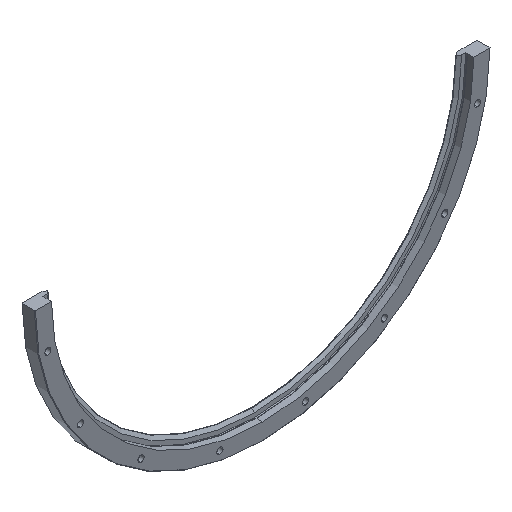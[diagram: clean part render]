
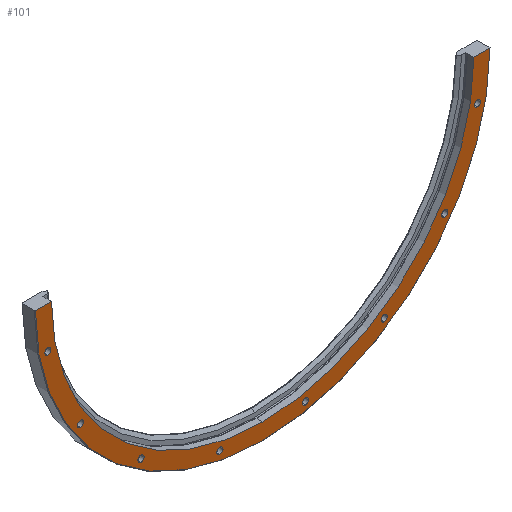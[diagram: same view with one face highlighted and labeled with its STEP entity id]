
A CAD part, isometric view. The second image highlights one B-rep face of the part: STEP entity #101.
In plain terms, the highlighted planar face has unit normal (0, -1, 0).
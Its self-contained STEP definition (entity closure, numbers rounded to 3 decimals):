
#101=ADVANCED_FACE('',(#192,#193,#194,#195,#196,#197,#198,#199,#200),#201,.T.);
#192=FACE_OUTER_BOUND('',#344,.T.);
#193=FACE_BOUND('',#345,.T.);
#194=FACE_BOUND('',#346,.T.);
#195=FACE_BOUND('',#347,.T.);
#196=FACE_BOUND('',#348,.T.);
#197=FACE_BOUND('',#349,.T.);
#198=FACE_BOUND('',#350,.T.);
#199=FACE_BOUND('',#351,.T.);
#200=FACE_BOUND('',#352,.T.);
#201=PLANE('',#353);
#344=EDGE_LOOP('',(#626,#627,#628,#629,#630,#631));
#345=EDGE_LOOP('',(#632,#633));
#346=EDGE_LOOP('',(#634,#635));
#347=EDGE_LOOP('',(#636,#637));
#348=EDGE_LOOP('',(#638,#639));
#349=EDGE_LOOP('',(#640,#641));
#350=EDGE_LOOP('',(#642,#643));
#351=EDGE_LOOP('',(#644,#645));
#352=EDGE_LOOP('',(#646,#647));
#353=AXIS2_PLACEMENT_3D('',#648,#649,#650);
#626=ORIENTED_EDGE('',*,*,#1049,.F.);
#627=ORIENTED_EDGE('',*,*,#969,.T.);
#628=ORIENTED_EDGE('',*,*,#1050,.T.);
#629=ORIENTED_EDGE('',*,*,#1051,.F.);
#630=ORIENTED_EDGE('',*,*,#1052,.F.);
#631=ORIENTED_EDGE('',*,*,#953,.F.);
#632=ORIENTED_EDGE('',*,*,#1053,.T.);
#633=ORIENTED_EDGE('',*,*,#982,.T.);
#634=ORIENTED_EDGE('',*,*,#1054,.T.);
#635=ORIENTED_EDGE('',*,*,#990,.T.);
#636=ORIENTED_EDGE('',*,*,#1055,.T.);
#637=ORIENTED_EDGE('',*,*,#1030,.T.);
#638=ORIENTED_EDGE('',*,*,#1056,.T.);
#639=ORIENTED_EDGE('',*,*,#1038,.T.);
#640=ORIENTED_EDGE('',*,*,#1057,.T.);
#641=ORIENTED_EDGE('',*,*,#1022,.T.);
#642=ORIENTED_EDGE('',*,*,#1058,.T.);
#643=ORIENTED_EDGE('',*,*,#1014,.T.);
#644=ORIENTED_EDGE('',*,*,#1059,.T.);
#645=ORIENTED_EDGE('',*,*,#1006,.T.);
#646=ORIENTED_EDGE('',*,*,#1060,.T.);
#647=ORIENTED_EDGE('',*,*,#998,.T.);
#648=CARTESIAN_POINT('',(-409.0,-19.325,0.0));
#649=DIRECTION('',(0.0,-1.0,0.0));
#650=DIRECTION('',(0.0,0.0,-1.0));
#953=EDGE_CURVE('',#1112,#1108,#1114,.T.);
#969=EDGE_CURVE('',#1144,#1141,#1145,.T.);
#982=EDGE_CURVE('',#1167,#1168,#1169,.T.);
#990=EDGE_CURVE('',#1183,#1184,#1185,.T.);
#998=EDGE_CURVE('',#1199,#1200,#1201,.T.);
#1006=EDGE_CURVE('',#1215,#1216,#1217,.T.);
#1014=EDGE_CURVE('',#1231,#1232,#1233,.T.);
#1022=EDGE_CURVE('',#1247,#1248,#1249,.T.);
#1030=EDGE_CURVE('',#1263,#1264,#1265,.T.);
#1038=EDGE_CURVE('',#1279,#1280,#1281,.T.);
#1049=EDGE_CURVE('',#1144,#1112,#1299,.T.);
#1050=EDGE_CURVE('',#1141,#1300,#1301,.T.);
#1051=EDGE_CURVE('',#1302,#1300,#1303,.T.);
#1052=EDGE_CURVE('',#1108,#1302,#1304,.T.);
#1053=EDGE_CURVE('',#1168,#1167,#1305,.T.);
#1054=EDGE_CURVE('',#1184,#1183,#1306,.T.);
#1055=EDGE_CURVE('',#1264,#1263,#1307,.T.);
#1056=EDGE_CURVE('',#1280,#1279,#1308,.T.);
#1057=EDGE_CURVE('',#1248,#1247,#1309,.T.);
#1058=EDGE_CURVE('',#1232,#1231,#1310,.T.);
#1059=EDGE_CURVE('',#1216,#1215,#1311,.T.);
#1060=EDGE_CURVE('',#1200,#1199,#1312,.T.);
#1108=VERTEX_POINT('',#1368);
#1112=VERTEX_POINT('',#1373);
#1114=CIRCLE('',#1378,409.0);
#1141=VERTEX_POINT('',#1418);
#1144=VERTEX_POINT('',#1422);
#1145=CIRCLE('',#1423,380.0);
#1167=VERTEX_POINT('',#1458);
#1168=VERTEX_POINT('',#1459);
#1169=CIRCLE('',#1460,5.5);
#1183=VERTEX_POINT('',#1478);
#1184=VERTEX_POINT('',#1479);
#1185=CIRCLE('',#1480,5.5);
#1199=VERTEX_POINT('',#1498);
#1200=VERTEX_POINT('',#1499);
#1201=CIRCLE('',#1500,5.5);
#1215=VERTEX_POINT('',#1518);
#1216=VERTEX_POINT('',#1519);
#1217=CIRCLE('',#1520,5.5);
#1231=VERTEX_POINT('',#1538);
#1232=VERTEX_POINT('',#1539);
#1233=CIRCLE('',#1540,5.5);
#1247=VERTEX_POINT('',#1558);
#1248=VERTEX_POINT('',#1559);
#1249=CIRCLE('',#1560,5.5);
#1263=VERTEX_POINT('',#1578);
#1264=VERTEX_POINT('',#1579);
#1265=CIRCLE('',#1580,5.5);
#1279=VERTEX_POINT('',#1598);
#1280=VERTEX_POINT('',#1599);
#1281=CIRCLE('',#1600,5.5);
#1299=LINE('',#1628,#1629);
#1300=VERTEX_POINT('',#1630);
#1301=CIRCLE('',#1631,380.0);
#1302=VERTEX_POINT('',#1632);
#1303=LINE('',#1633,#1634);
#1304=CIRCLE('',#1635,409.0);
#1305=CIRCLE('',#1636,5.5);
#1306=CIRCLE('',#1637,5.5);
#1307=CIRCLE('',#1638,5.5);
#1308=CIRCLE('',#1639,5.5);
#1309=CIRCLE('',#1640,5.5);
#1310=CIRCLE('',#1641,5.5);
#1311=CIRCLE('',#1642,5.5);
#1312=CIRCLE('',#1643,5.5);
#1368=CARTESIAN_POINT('',(0.,-19.325,-409.0));
#1373=CARTESIAN_POINT('',(408.995,-19.325,-2.0));
#1378=AXIS2_PLACEMENT_3D('',#1728,#1729,#1730);
#1418=CARTESIAN_POINT('',(0.,-19.325,-380.0));
#1422=CARTESIAN_POINT('',(379.995,-19.325,-2.0));
#1423=AXIS2_PLACEMENT_3D('',#1758,#1759,#1760);
#1458=CARTESIAN_POINT('',(386.429,-19.325,-82.366));
#1459=CARTESIAN_POINT('',(386.429,-19.325,-71.366));
#1460=AXIS2_PLACEMENT_3D('',#1785,#1786,#1787);
#1478=CARTESIAN_POINT('',(327.599,-19.325,-224.395));
#1479=CARTESIAN_POINT('',(327.599,-19.325,-213.395));
#1480=AXIS2_PLACEMENT_3D('',#1801,#1802,#1803);
#1498=CARTESIAN_POINT('',(218.895,-19.325,-333.099));
#1499=CARTESIAN_POINT('',(218.895,-19.325,-322.099));
#1500=AXIS2_PLACEMENT_3D('',#1817,#1818,#1819);
#1518=CARTESIAN_POINT('',(76.866,-19.325,-391.929));
#1519=CARTESIAN_POINT('',(76.866,-19.325,-380.929));
#1520=AXIS2_PLACEMENT_3D('',#1833,#1834,#1835);
#1538=CARTESIAN_POINT('',(-76.866,-19.325,-391.929));
#1539=CARTESIAN_POINT('',(-76.866,-19.325,-380.929));
#1540=AXIS2_PLACEMENT_3D('',#1849,#1850,#1851);
#1558=CARTESIAN_POINT('',(-218.895,-19.325,-333.099));
#1559=CARTESIAN_POINT('',(-218.895,-19.325,-322.099));
#1560=AXIS2_PLACEMENT_3D('',#1865,#1866,#1867);
#1578=CARTESIAN_POINT('',(-327.599,-19.325,-224.395));
#1579=CARTESIAN_POINT('',(-327.599,-19.325,-213.395));
#1580=AXIS2_PLACEMENT_3D('',#1881,#1882,#1883);
#1598=CARTESIAN_POINT('',(-386.429,-19.325,-82.366));
#1599=CARTESIAN_POINT('',(-386.429,-19.325,-71.366));
#1600=AXIS2_PLACEMENT_3D('',#1897,#1898,#1899);
#1628=CARTESIAN_POINT('',(29.933,-19.325,-2.0));
#1629=VECTOR('',#1916,1000.0);
#1630=CARTESIAN_POINT('',(-379.995,-19.325,-2.0));
#1631=AXIS2_PLACEMENT_3D('',#1917,#1918,#1919);
#1632=CARTESIAN_POINT('',(-408.995,-19.325,-2.0));
#1633=CARTESIAN_POINT('',(-999.998,-19.325,-2.0));
#1634=VECTOR('',#1920,1000.0);
#1635=AXIS2_PLACEMENT_3D('',#1921,#1922,#1923);
#1636=AXIS2_PLACEMENT_3D('',#1924,#1925,#1926);
#1637=AXIS2_PLACEMENT_3D('',#1927,#1928,#1929);
#1638=AXIS2_PLACEMENT_3D('',#1930,#1931,#1932);
#1639=AXIS2_PLACEMENT_3D('',#1933,#1934,#1935);
#1640=AXIS2_PLACEMENT_3D('',#1936,#1937,#1938);
#1641=AXIS2_PLACEMENT_3D('',#1939,#1940,#1941);
#1642=AXIS2_PLACEMENT_3D('',#1942,#1943,#1944);
#1643=AXIS2_PLACEMENT_3D('',#1945,#1946,#1947);
#1728=CARTESIAN_POINT('',(0.0,-19.325,0.0));
#1729=DIRECTION('',(-0.0,1.0,0.0));
#1730=DIRECTION('',(0.0,0.0,1.0));
#1758=CARTESIAN_POINT('',(0.0,-19.325,0.0));
#1759=DIRECTION('',(-0.0,1.0,0.0));
#1760=DIRECTION('',(0.0,0.0,1.0));
#1785=CARTESIAN_POINT('',(386.429,-19.325,-76.866));
#1786=DIRECTION('',(-0.0,1.0,0.0));
#1787=DIRECTION('',(0.0,0.0,1.0));
#1801=CARTESIAN_POINT('',(327.599,-19.325,-218.895));
#1802=DIRECTION('',(-0.0,1.0,0.0));
#1803=DIRECTION('',(0.0,0.0,1.0));
#1817=CARTESIAN_POINT('',(218.895,-19.325,-327.599));
#1818=DIRECTION('',(-0.0,1.0,0.0));
#1819=DIRECTION('',(0.0,0.0,1.0));
#1833=CARTESIAN_POINT('',(76.866,-19.325,-386.429));
#1834=DIRECTION('',(-0.0,1.0,0.0));
#1835=DIRECTION('',(0.0,0.0,1.0));
#1849=CARTESIAN_POINT('',(-76.866,-19.325,-386.429));
#1850=DIRECTION('',(-0.0,1.0,0.0));
#1851=DIRECTION('',(0.0,0.0,1.0));
#1865=CARTESIAN_POINT('',(-218.895,-19.325,-327.599));
#1866=DIRECTION('',(-0.0,1.0,0.0));
#1867=DIRECTION('',(0.0,0.0,1.0));
#1881=CARTESIAN_POINT('',(-327.599,-19.325,-218.895));
#1882=DIRECTION('',(-0.0,1.0,0.0));
#1883=DIRECTION('',(0.0,0.0,1.0));
#1897=CARTESIAN_POINT('',(-386.429,-19.325,-76.866));
#1898=DIRECTION('',(-0.0,1.0,0.0));
#1899=DIRECTION('',(0.0,0.0,1.0));
#1916=DIRECTION('',(1.0,0.0,0.0));
#1917=CARTESIAN_POINT('',(0.0,-19.325,0.0));
#1918=DIRECTION('',(-0.0,1.0,0.0));
#1919=DIRECTION('',(0.0,0.0,1.0));
#1920=DIRECTION('',(1.0,0.0,0.0));
#1921=CARTESIAN_POINT('',(0.0,-19.325,0.0));
#1922=DIRECTION('',(-0.0,1.0,0.0));
#1923=DIRECTION('',(0.0,0.0,1.0));
#1924=CARTESIAN_POINT('',(386.429,-19.325,-76.866));
#1925=DIRECTION('',(-0.0,1.0,0.0));
#1926=DIRECTION('',(0.0,0.0,1.0));
#1927=CARTESIAN_POINT('',(327.599,-19.325,-218.895));
#1928=DIRECTION('',(-0.0,1.0,0.0));
#1929=DIRECTION('',(0.0,0.0,1.0));
#1930=CARTESIAN_POINT('',(-327.599,-19.325,-218.895));
#1931=DIRECTION('',(-0.0,1.0,0.0));
#1932=DIRECTION('',(0.0,0.0,1.0));
#1933=CARTESIAN_POINT('',(-386.429,-19.325,-76.866));
#1934=DIRECTION('',(-0.0,1.0,0.0));
#1935=DIRECTION('',(0.0,0.0,1.0));
#1936=CARTESIAN_POINT('',(-218.895,-19.325,-327.599));
#1937=DIRECTION('',(-0.0,1.0,0.0));
#1938=DIRECTION('',(0.0,0.0,1.0));
#1939=CARTESIAN_POINT('',(-76.866,-19.325,-386.429));
#1940=DIRECTION('',(-0.0,1.0,0.0));
#1941=DIRECTION('',(0.0,0.0,1.0));
#1942=CARTESIAN_POINT('',(76.866,-19.325,-386.429));
#1943=DIRECTION('',(-0.0,1.0,0.0));
#1944=DIRECTION('',(0.0,0.0,1.0));
#1945=CARTESIAN_POINT('',(218.895,-19.325,-327.599));
#1946=DIRECTION('',(-0.0,1.0,0.0));
#1947=DIRECTION('',(0.0,0.0,1.0));
